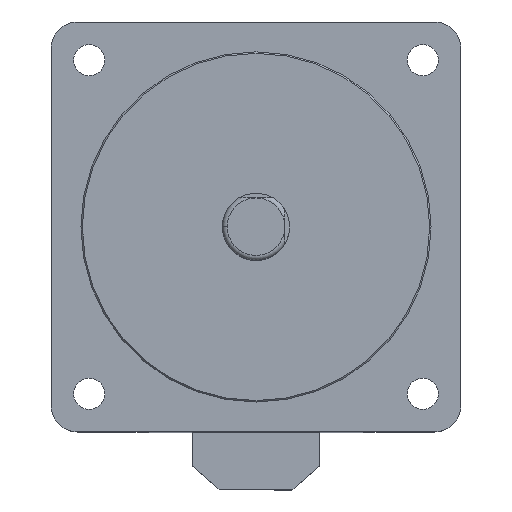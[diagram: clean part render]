
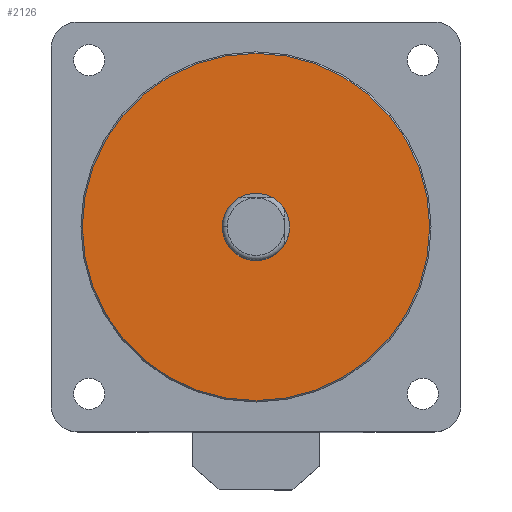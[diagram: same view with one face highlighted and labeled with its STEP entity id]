
A CAD part, top view. The second image highlights one B-rep face of the part: STEP entity #2126.
In plain terms, the highlighted planar face has unit normal (0, 0, 1).
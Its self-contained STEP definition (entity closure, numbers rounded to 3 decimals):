
#20 = EDGE_LOOP ( 'NONE', ( #1579, #305 ) ) ;
#77 = CARTESIAN_POINT ( 'NONE',  ( 7., 0., 0. ) ) ;
#98 = PLANE ( 'NONE',  #1328 ) ;
#129 = CIRCLE ( 'NONE', #365, 7. ) ;
#169 = VERTEX_POINT ( 'NONE', #626 ) ;
#227 = CARTESIAN_POINT ( 'NONE',  ( 0., 0., 0. ) ) ;
#305 = ORIENTED_EDGE ( 'NONE', *, *, #1766, .T. ) ;
#309 = VERTEX_POINT ( 'NONE', #2187 ) ;
#365 = AXIS2_PLACEMENT_3D ( 'NONE', #1320, #1065, #828 ) ;
#531 = ORIENTED_EDGE ( 'NONE', *, *, #663, .T. ) ;
#626 = CARTESIAN_POINT ( 'NONE',  ( 36.212, 0., 0. ) ) ;
#663 = EDGE_CURVE ( 'NONE', #907, #309, #129, .T. ) ;
#737 = CARTESIAN_POINT ( 'NONE',  ( 0., 0., 0. ) ) ;
#828 = DIRECTION ( 'NONE',  ( -1., 0., 0. ) ) ;
#907 = VERTEX_POINT ( 'NONE', #77 ) ;
#926 = CIRCLE ( 'NONE', #2162, 36.212 ) ;
#976 = DIRECTION ( 'NONE',  ( -1., 0., 0. ) ) ;
#1065 = DIRECTION ( 'NONE',  ( 0., 0., -1. ) ) ;
#1230 = ORIENTED_EDGE ( 'NONE', *, *, #1934, .T. ) ;
#1232 = DIRECTION ( 'NONE',  ( 0., 0., -1. ) ) ;
#1320 = CARTESIAN_POINT ( 'NONE',  ( 0., 0., 0. ) ) ;
#1328 = AXIS2_PLACEMENT_3D ( 'NONE', #1988, #1729, #1500 ) ;
#1466 = CARTESIAN_POINT ( 'NONE',  ( 0., 0., 0. ) ) ;
#1483 = CIRCLE ( 'NONE', #2053, 7. ) ;
#1500 = DIRECTION ( 'NONE',  ( -1., 0., 0. ) ) ;
#1579 = ORIENTED_EDGE ( 'NONE', *, *, #1944, .T. ) ;
#1619 = FACE_OUTER_BOUND ( 'NONE', #20, .T. ) ;
#1633 = VERTEX_POINT ( 'NONE', #1854 ) ;
#1644 = DIRECTION ( 'NONE',  ( -1., 0., 0. ) ) ;
#1729 = DIRECTION ( 'NONE',  ( 0., 0., -1. ) ) ;
#1766 = EDGE_CURVE ( 'NONE', #169, #1633, #926, .T. ) ;
#1804 = FACE_BOUND ( 'NONE', #1829, .T. ) ;
#1829 = EDGE_LOOP ( 'NONE', ( #1230, #531 ) ) ;
#1854 = CARTESIAN_POINT ( 'NONE',  ( -36.212, 0., 0. ) ) ;
#1867 = DIRECTION ( 'NONE',  ( -1., 0., 0. ) ) ;
#1891 = CIRCLE ( 'NONE', #2178, 36.212 ) ;
#1893 = DIRECTION ( 'NONE',  ( 0., 0., 1. ) ) ;
#1934 = EDGE_CURVE ( 'NONE', #309, #907, #1483, .T. ) ;
#1944 = EDGE_CURVE ( 'NONE', #1633, #169, #1891, .T. ) ;
#1988 = CARTESIAN_POINT ( 'NONE',  ( 0., 0., 0. ) ) ;
#2053 = AXIS2_PLACEMENT_3D ( 'NONE', #1466, #1232, #976 ) ;
#2120 = DIRECTION ( 'NONE',  ( 0., 0., 1. ) ) ;
#2126 = ADVANCED_FACE ( 'NONE', ( #1619, #1804 ), #98, .F. ) ;
#2162 = AXIS2_PLACEMENT_3D ( 'NONE', #227, #2120, #1867 ) ;
#2178 = AXIS2_PLACEMENT_3D ( 'NONE', #737, #1893, #1644 ) ;
#2187 = CARTESIAN_POINT ( 'NONE',  ( -7., 0., 0. ) ) ;
